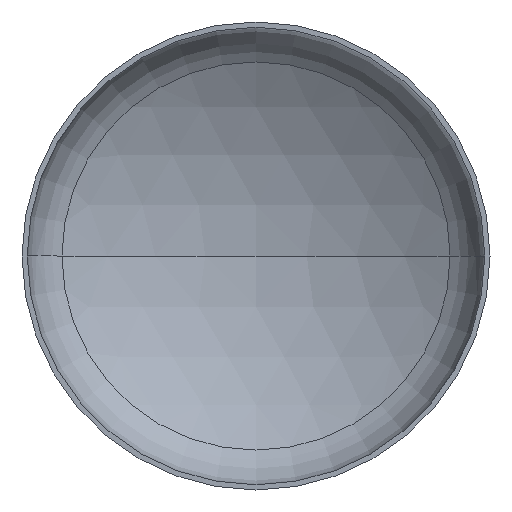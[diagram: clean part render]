
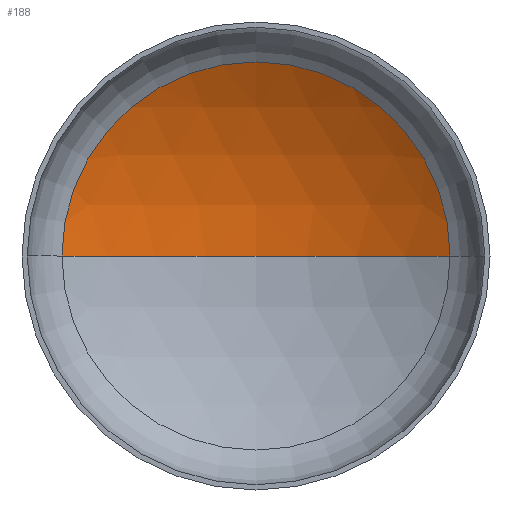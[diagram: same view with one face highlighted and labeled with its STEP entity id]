
A CAD part, front view. The second image highlights one B-rep face of the part: STEP entity #188.
In plain terms, the highlighted spherical face has radius 6400 mm.
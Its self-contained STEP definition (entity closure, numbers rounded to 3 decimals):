
#28 = AXIS2_PLACEMENT_3D ( 'NONE', #144, #246, #339 ) ;
#55 = AXIS2_PLACEMENT_3D ( 'NONE', #134, #140, #261 ) ;
#58 = AXIS2_PLACEMENT_3D ( 'NONE', #278, #259, #258 ) ;
#66 = AXIS2_PLACEMENT_3D ( 'NONE', #276, #269, #267 ) ;
#103 = EDGE_CURVE ( 'NONE', #280, #386, #342, .T. ) ;
#108 = EDGE_CURVE ( 'NONE', #270, #280, #410, .T. ) ;
#109 = EDGE_CURVE ( 'NONE', #270, #386, #273, .T. ) ;
#134 = CARTESIAN_POINT ( 'NONE',  ( 0., -4321.142, 0. ) ) ;
#140 = DIRECTION ( 'NONE',  ( 0., 0., 1. ) ) ;
#144 = CARTESIAN_POINT ( 'NONE',  ( 0., -4321.142, 0. ) ) ;
#184 = CARTESIAN_POINT ( 'NONE',  ( 0., 2078.858, 0. ) ) ;
#188 = ADVANCED_FACE ( 'NONE', ( #321 ), #391, .F. ) ;
#241 = ORIENTED_EDGE ( 'NONE', *, *, #103, .T. ) ;
#246 = DIRECTION ( 'NONE',  ( 0., 0., -1. ) ) ;
#258 = DIRECTION ( 'NONE',  ( -1., 0., 0. ) ) ;
#259 = DIRECTION ( 'NONE',  ( 0., 0., -1. ) ) ;
#261 = DIRECTION ( 'NONE',  ( 1., 0., 0. ) ) ;
#267 = DIRECTION ( 'NONE',  ( 1., 0., 0. ) ) ;
#269 = DIRECTION ( 'NONE',  ( 0., -1., 0. ) ) ;
#270 = VERTEX_POINT ( 'NONE', #184 ) ;
#273 = CIRCLE ( 'NONE', #55, 6400. ) ;
#276 = CARTESIAN_POINT ( 'NONE',  ( 0., 1151.839, 0. ) ) ;
#278 = CARTESIAN_POINT ( 'NONE',  ( 0., -4321.142, 0. ) ) ;
#280 = VERTEX_POINT ( 'NONE', #393 ) ;
#293 = ORIENTED_EDGE ( 'NONE', *, *, #109, .F. ) ;
#321 = FACE_OUTER_BOUND ( 'NONE', #328, .T. ) ;
#324 = ORIENTED_EDGE ( 'NONE', *, *, #108, .T. ) ;
#328 = EDGE_LOOP ( 'NONE', ( #293, #324, #241 ) ) ;
#339 = DIRECTION ( 'NONE',  ( -1., 0., 0. ) ) ;
#342 = CIRCLE ( 'NONE', #66, 3317.602 ) ;
#344 = CARTESIAN_POINT ( 'NONE',  ( -3317.602, 1151.839, 0. ) ) ;
#386 = VERTEX_POINT ( 'NONE', #344 ) ;
#391 = SPHERICAL_SURFACE ( 'NONE', #28, 6400. ) ;
#393 = CARTESIAN_POINT ( 'NONE',  ( 3317.602, 1151.839, 0. ) ) ;
#410 = CIRCLE ( 'NONE', #58, 6400. ) ;
